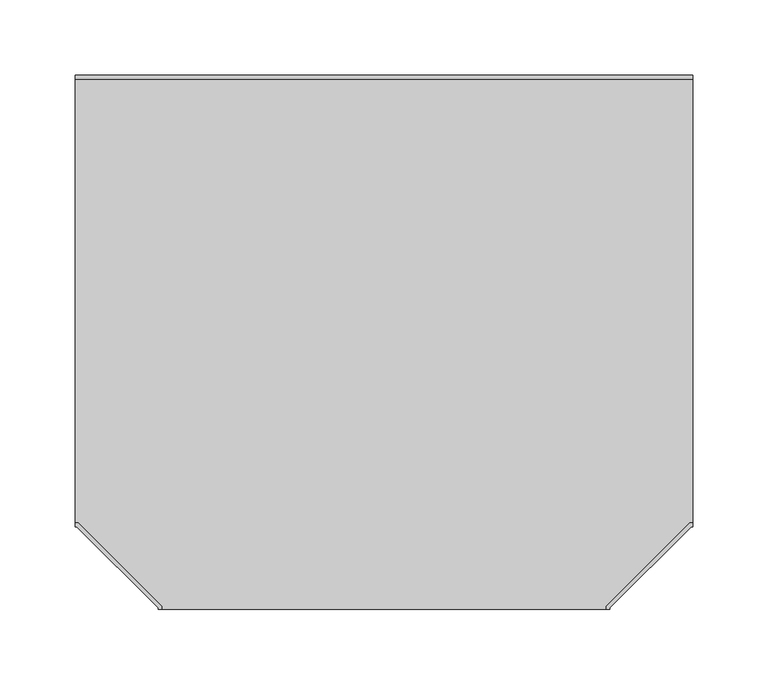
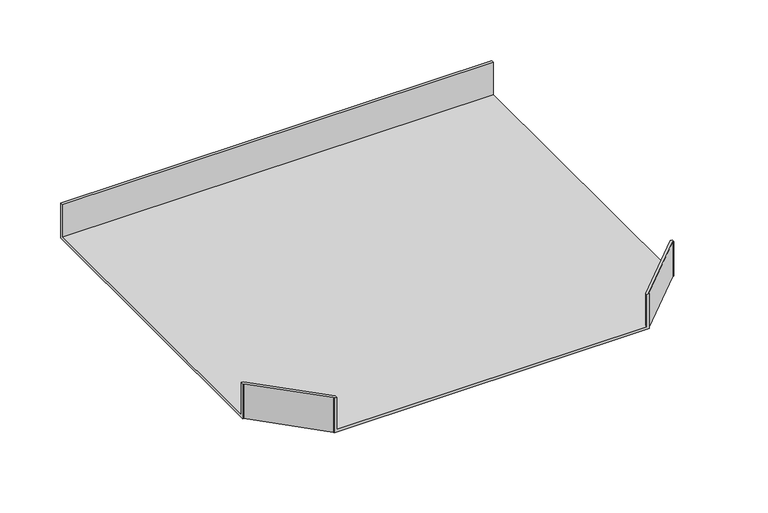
"""IFC4 building model written with IfcOpenShell, lengths in millimetres: cable carrier fitting geometry, BAKS_Mesh horizontal tee : TKSZ_H35."""

from ifc_helpers import new_model, si_unit, origin, place, context, project, spatial, faceted_brep, source, transform, mapped, element, save


def cable_carrier_fitting_2209817d(model_context):
    return source(origin(), model_context, "Body", "Brep", [
        faceted_brep([(-147.46, -202.9478976, 17.5), (-202.9478976, -147.46, 17.5), (-205.0, -147.46, 17.5), (-205.0, -150.0, 17.5), (-204.0, -150.0, 17.5), (-150.0, -204.0, 17.5), (-150.0, -205.0, 17.5), (-147.46, -205.0, 17.5), (147.46, -202.9478976, 17.5), (147.46, -205.0, 17.5), (150.0, -205.0, 17.5), (150.0, -204.0, 17.5), (204.0, -150.0, 17.5), (205.0, -150.0, 17.5), (205.0, -147.46, 17.5), (202.9478976, -147.46, 17.5), (205.0, 150.0, 17.5), (-205.0, 150.0, 17.5), (-205.0, 147.46, 17.5), (205.0, 147.46, 17.5), (-150.0, -205.0, -17.5), (-150.0, -204.0, -17.5), (-204.0, -150.0, -17.5), (-205.0, -150.0, -17.5), (-205.0, 150.0, -17.5), (205.0, 150.0, -17.5), (205.0, -150.0, -17.5), (204.0, -150.0, -17.5), (150.0, -204.0, -17.5), (150.0, -205.0, -17.5), (-147.46, -202.9478976, -14.96), (-202.9478976, -147.46, -14.96), (-205.0, -147.46, -14.96), (-205.0, 147.46, -14.96), (-204.0, -150.0, -14.96), (-150.0, -204.0, -14.96), (147.46, -205.0, -14.96), (-147.46, -205.0, -14.96), (150.0, -204.0, -14.96), (204.0, -150.0, -14.96), (205.0, 147.46, -14.96), (205.0, -147.46, -14.96), (202.9478976, -147.46, -14.96), (147.46, -202.9478976, -14.96)], [[[0, 1, 2, 3, 4, 5, 6, 7]], [[8, 9, 10, 11, 12, 13, 14, 15]], [[16, 17, 18, 19]], [[20, 21, 22, 23, 24, 25, 26, 27, 28, 29]], [[1, 0, 30, 31]], [[2, 1, 31, 32]], [[3, 2, 32, 33, 18, 17, 24, 23]], [[4, 3, 23, 22, 34]], [[5, 4, 34, 22, 21, 35]], [[20, 6, 5, 35, 21]], [[7, 6, 20, 29, 10, 9, 36, 37]], [[0, 7, 37, 30]], [[12, 11, 38, 28, 27, 39]], [[26, 13, 12, 39, 27]], [[14, 13, 26, 25, 16, 19, 40, 41]], [[15, 14, 41, 42]], [[8, 15, 42, 43]], [[9, 8, 43, 36]], [[11, 10, 29, 28, 38]], [[24, 17, 16, 25]], [[19, 18, 33, 40]], [[37, 36, 43, 42, 41, 40, 33, 32, 31, 30]]]),
    ])


if __name__ == "__main__":
    model = new_model("IFC4")
    model_context = context("Model", 3, world=origin())
    ifc_project = project(units=[si_unit("LENGTHUNIT", "METRE", prefix="MILLI")], contexts=[model_context])
    site = spatial("IfcSite", under=ifc_project)
    building = spatial("IfcBuilding", under=site)
    placement = place(None, origin())
    cable_carrier_fitting_shape = cable_carrier_fitting_2209817d(model_context)
    element("IfcCableCarrierFitting", 1, ObjectType="BAKS_Mesh horizontal tee : TKSZ_H35", at=placement, inside=building, context=model_context, shape_type="MappedRepresentation", body=[
        mapped(cable_carrier_fitting_shape, transform((0.0, 0.0, 0.0), x_axis=(1.0, 0.0, 0.0), y_axis=(0.0, 1.0, 0.0), z_axis=(0.0, 0.0, 1.0))),
    ])
    save(model, "model.ifc")
